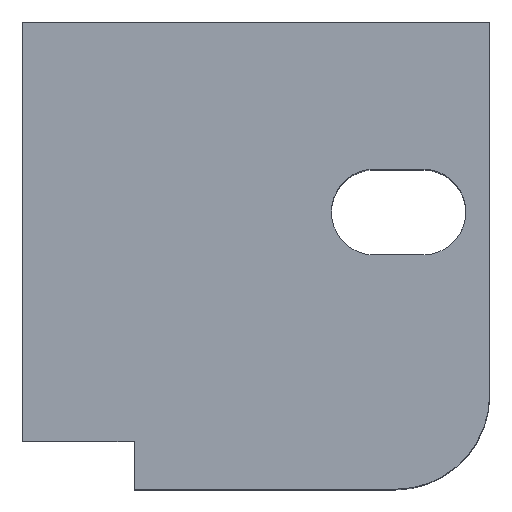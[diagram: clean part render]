
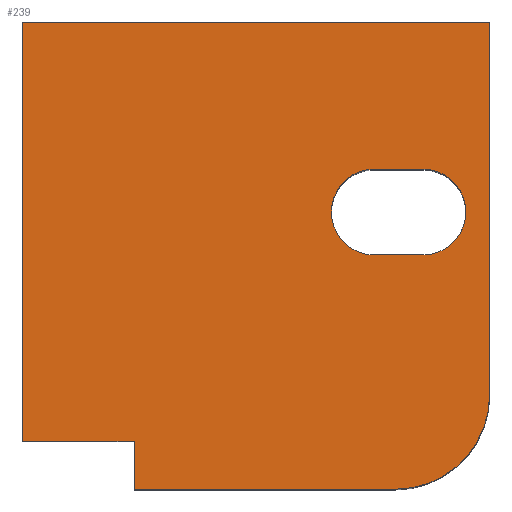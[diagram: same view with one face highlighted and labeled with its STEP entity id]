
A CAD part, top view. The second image highlights one B-rep face of the part: STEP entity #239.
In plain terms, the highlighted planar face has unit normal (0, 0, 1).
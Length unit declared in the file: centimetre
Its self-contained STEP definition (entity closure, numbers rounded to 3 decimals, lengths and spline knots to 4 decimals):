
#12 = CARTESIAN_POINT ( 'NONE',  ( 857.2509, 501.356, 1000. ) ) ;
#23 = VERTEX_POINT ( 'NONE', #1161 ) ;
#51 = EDGE_CURVE ( 'NONE', #106, #791, #1312, .T. ) ;
#64 = AXIS2_PLACEMENT_3D ( 'NONE', #672, #124, #359 ) ;
#106 = VERTEX_POINT ( 'NONE', #418 ) ;
#109 = FACE_OUTER_BOUND ( 'NONE', #1326, .T. ) ;
#116 = VECTOR ( 'NONE', #920, 100. ) ;
#124 = DIRECTION ( 'NONE',  ( 0., 0., -1. ) ) ;
#182 = CARTESIAN_POINT ( 'NONE',  ( 857.2509, 593.1453, 1000. ) ) ;
#189 = DIRECTION ( 'NONE',  ( 1., 0., 0. ) ) ;
#224 = VECTOR ( 'NONE', #256, 100. ) ;
#239 = ADVANCED_FACE ( 'NONE', ( #109, #513 ), #955, .T. ) ;
#256 = DIRECTION ( 'NONE',  ( 0., 1., 0. ) ) ;
#286 = CARTESIAN_POINT ( 'NONE',  ( 753.1268, 593.1453, 1000. ) ) ;
#288 = CIRCLE ( 'NONE', #823, 201.2957 ) ;
#294 = DIRECTION ( 'NONE',  ( 0., 0., -1. ) ) ;
#312 = LINE ( 'NONE', #318, #224 ) ;
#318 = CARTESIAN_POINT ( 'NONE',  ( 1000., 1000., 1000. ) ) ;
#328 = DIRECTION ( 'NONE',  ( -1., 0., 0. ) ) ;
#336 = EDGE_CURVE ( 'NONE', #106, #23, #968, .T. ) ;
#344 = CARTESIAN_POINT ( 'NONE',  ( 0., 0., 1000. ) ) ;
#356 = LINE ( 'NONE', #1343, #116 ) ;
#359 = DIRECTION ( 'NONE',  ( 1., 0., 0. ) ) ;
#373 = VECTOR ( 'NONE', #671, 100. ) ;
#375 = ORIENTED_EDGE ( 'NONE', *, *, #1085, .T. ) ;
#397 = AXIS2_PLACEMENT_3D ( 'NONE', #640, #1056, #1294 ) ;
#405 = VECTOR ( 'NONE', #1030, 100. ) ;
#418 = CARTESIAN_POINT ( 'NONE',  ( 239.0844, 0., 1000. ) ) ;
#423 = ORIENTED_EDGE ( 'NONE', *, *, #1131, .T. ) ;
#443 = EDGE_CURVE ( 'NONE', #600, #577, #312, .T. ) ;
#470 = CIRCLE ( 'NONE', #1259, 91.7894 ) ;
#473 = CARTESIAN_POINT ( 'NONE',  ( 798.7043, 0., 1000. ) ) ;
#492 = CARTESIAN_POINT ( 'NONE',  ( 753.1268, 684.9347, 1000. ) ) ;
#513 = FACE_BOUND ( 'NONE', #1375, .T. ) ;
#520 = VERTEX_POINT ( 'NONE', #1000 ) ;
#523 = DIRECTION ( 'NONE',  ( 0., 0., -1. ) ) ;
#526 = ORIENTED_EDGE ( 'NONE', *, *, #51, .T. ) ;
#550 = VERTEX_POINT ( 'NONE', #558 ) ;
#552 = EDGE_CURVE ( 'NONE', #1021, #835, #757, .T. ) ;
#558 = CARTESIAN_POINT ( 'NONE',  ( 753.1268, 501.356, 1000. ) ) ;
#560 = CARTESIAN_POINT ( 'NONE',  ( 753.1268, 501.356, 1000. ) ) ;
#577 = VERTEX_POINT ( 'NONE', #883 ) ;
#583 = ORIENTED_EDGE ( 'NONE', *, *, #878, .T. ) ;
#600 = VERTEX_POINT ( 'NONE', #659 ) ;
#628 = DIRECTION ( 'NONE',  ( 1., 0., 0. ) ) ;
#640 = CARTESIAN_POINT ( 'NONE',  ( 0., 0., 1000. ) ) ;
#648 = DIRECTION ( 'NONE',  ( -1., 0., 0. ) ) ;
#649 = EDGE_CURVE ( 'NONE', #23, #520, #875, .T. ) ;
#659 = CARTESIAN_POINT ( 'NONE',  ( 1000., 201.2957, 1000. ) ) ;
#671 = DIRECTION ( 'NONE',  ( 1., 0., 0. ) ) ;
#672 = CARTESIAN_POINT ( 'NONE',  ( 753.1268, 593.1453, 1000. ) ) ;
#679 = ORIENTED_EDGE ( 'NONE', *, *, #735, .T. ) ;
#694 = CARTESIAN_POINT ( 'NONE',  ( 857.2509, 684.9347, 1000. ) ) ;
#703 = DIRECTION ( 'NONE',  ( 0., 0., 1. ) ) ;
#706 = VERTEX_POINT ( 'NONE', #788 ) ;
#735 = EDGE_CURVE ( 'NONE', #835, #903, #1130, .T. ) ;
#757 = CIRCLE ( 'NONE', #64, 91.7894 ) ;
#784 = CARTESIAN_POINT ( 'NONE',  ( 0., 102.7746, 1000. ) ) ;
#788 = CARTESIAN_POINT ( 'NONE',  ( 0., 1000., 1000. ) ) ;
#791 = VERTEX_POINT ( 'NONE', #473 ) ;
#799 = VECTOR ( 'NONE', #897, 100. ) ;
#816 = ORIENTED_EDGE ( 'NONE', *, *, #649, .F. ) ;
#823 = AXIS2_PLACEMENT_3D ( 'NONE', #1169, #703, #189 ) ;
#835 = VERTEX_POINT ( 'NONE', #492 ) ;
#849 = CARTESIAN_POINT ( 'NONE',  ( 239.0844, 0., 1000. ) ) ;
#875 = LINE ( 'NONE', #784, #1280 ) ;
#878 = EDGE_CURVE ( 'NONE', #706, #520, #356, .T. ) ;
#883 = CARTESIAN_POINT ( 'NONE',  ( 1000., 1000., 1000. ) ) ;
#888 = CARTESIAN_POINT ( 'NONE',  ( 857.2509, 684.9347, 1000. ) ) ;
#897 = DIRECTION ( 'NONE',  ( 1., 0., 0. ) ) ;
#903 = VERTEX_POINT ( 'NONE', #888 ) ;
#920 = DIRECTION ( 'NONE',  ( 0., -1., 0. ) ) ;
#946 = DIRECTION ( 'NONE',  ( 0., 1., 0. ) ) ;
#955 = PLANE ( 'NONE',  #397 ) ;
#968 = LINE ( 'NONE', #849, #1050 ) ;
#986 = EDGE_CURVE ( 'NONE', #550, #1021, #470, .T. ) ;
#1000 = CARTESIAN_POINT ( 'NONE',  ( 0., 102.7746, 1000. ) ) ;
#1001 = ORIENTED_EDGE ( 'NONE', *, *, #336, .F. ) ;
#1010 = CIRCLE ( 'NONE', #1189, 91.7894 ) ;
#1021 = VERTEX_POINT ( 'NONE', #1281 ) ;
#1030 = DIRECTION ( 'NONE',  ( -1., 0., 0. ) ) ;
#1050 = VECTOR ( 'NONE', #946, 100. ) ;
#1056 = DIRECTION ( 'NONE',  ( 0., 0., 1. ) ) ;
#1085 = EDGE_CURVE ( 'NONE', #903, #1334, #1010, .T. ) ;
#1089 = EDGE_CURVE ( 'NONE', #791, #600, #288, .T. ) ;
#1094 = LINE ( 'NONE', #560, #1124 ) ;
#1124 = VECTOR ( 'NONE', #648, 100. ) ;
#1130 = LINE ( 'NONE', #694, #799 ) ;
#1131 = EDGE_CURVE ( 'NONE', #577, #706, #1363, .T. ) ;
#1139 = ORIENTED_EDGE ( 'NONE', *, *, #443, .T. ) ;
#1147 = DIRECTION ( 'NONE',  ( 1., 0., 0. ) ) ;
#1149 = ORIENTED_EDGE ( 'NONE', *, *, #552, .T. ) ;
#1160 = CARTESIAN_POINT ( 'NONE',  ( 0., 1000., 1000. ) ) ;
#1161 = CARTESIAN_POINT ( 'NONE',  ( 239.0844, 102.7746, 1000. ) ) ;
#1169 = CARTESIAN_POINT ( 'NONE',  ( 798.7043, 201.2957, 1000. ) ) ;
#1189 = AXIS2_PLACEMENT_3D ( 'NONE', #182, #523, #628 ) ;
#1221 = ORIENTED_EDGE ( 'NONE', *, *, #986, .T. ) ;
#1234 = EDGE_CURVE ( 'NONE', #1334, #550, #1094, .T. ) ;
#1254 = ORIENTED_EDGE ( 'NONE', *, *, #1234, .T. ) ;
#1259 = AXIS2_PLACEMENT_3D ( 'NONE', #286, #294, #1147 ) ;
#1280 = VECTOR ( 'NONE', #328, 100. ) ;
#1281 = CARTESIAN_POINT ( 'NONE',  ( 661.3374, 593.1453, 1000. ) ) ;
#1294 = DIRECTION ( 'NONE',  ( 1., 0., 0. ) ) ;
#1307 = ORIENTED_EDGE ( 'NONE', *, *, #1089, .T. ) ;
#1312 = LINE ( 'NONE', #344, #373 ) ;
#1326 = EDGE_LOOP ( 'NONE', ( #816, #1001, #526, #1307, #1139, #423, #583 ) ) ;
#1334 = VERTEX_POINT ( 'NONE', #12 ) ;
#1343 = CARTESIAN_POINT ( 'NONE',  ( 0., 1000., 1000. ) ) ;
#1363 = LINE ( 'NONE', #1160, #405 ) ;
#1375 = EDGE_LOOP ( 'NONE', ( #1221, #1149, #679, #375, #1254 ) ) ;
